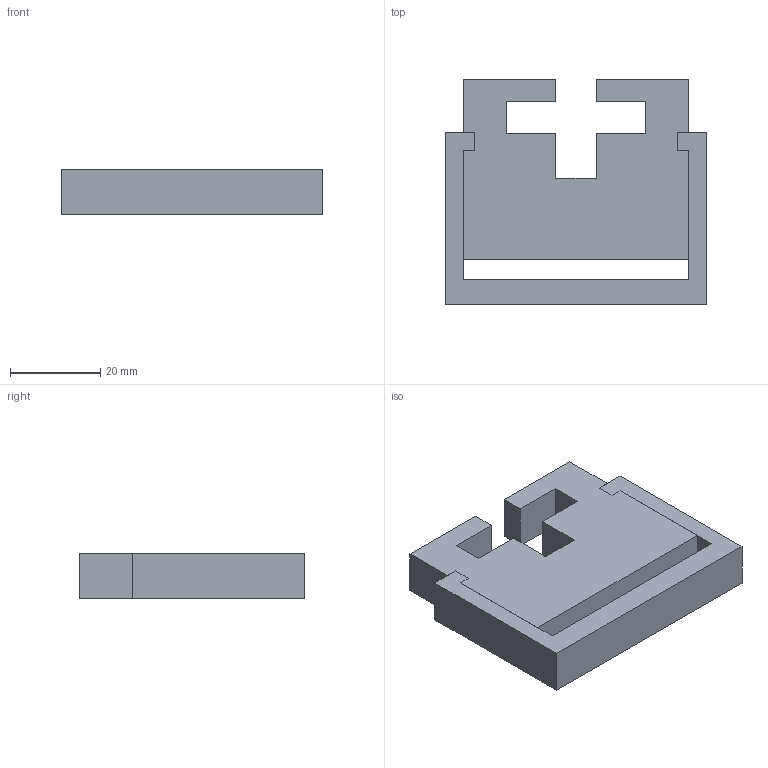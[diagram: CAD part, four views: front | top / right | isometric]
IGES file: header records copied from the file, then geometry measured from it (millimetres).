
Start section: SolidWorks IGES file using analytic representation for surfaces
Global section: file name: C:\Documents and Settings\ARGE\Desktop\yeni katalog tolgay düzenli\E kataloðu\ALPOLEN 1000 GH1 SIRALI ZÝNCÝR KIZAKLARI\207 GH1 C50.IGS; native system: SolidWorks 2006 by SolidWorks Corporation; preprocessor: SolidWorks 2006 by SolidWorks Corporation; author: ARGE2; date: 060912.175050; units: millimetre
Bounding box: 58 x 50 x 10 mm (x, y, z)
Surface area: 9916.1 mm2 (no closed solid volume)
Topology: 0 solids, 0 shells, 40 faces, 216 edges, 216 vertices
Faces by surface type: bspline 40
